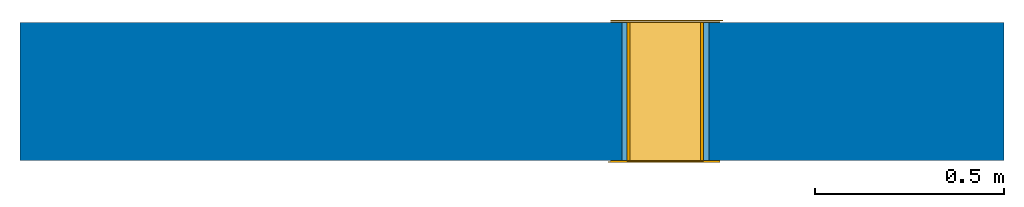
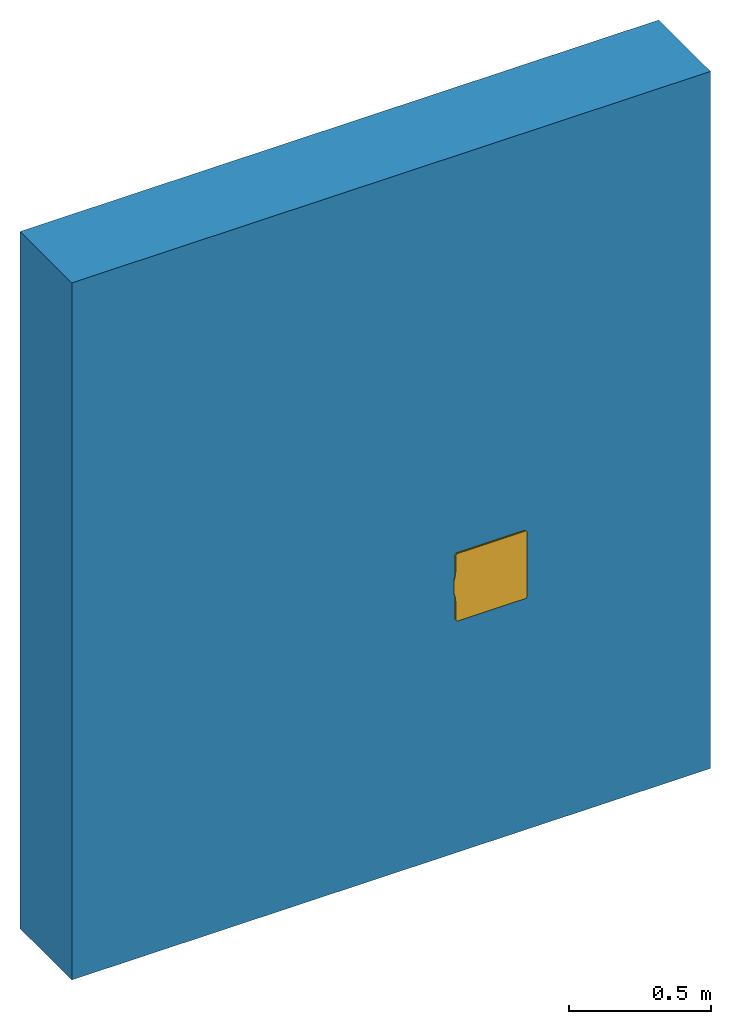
# Not in any storey: 1 wall, 1 window, 1 opening.
"""IFC2X3 model written with IfcOpenShell, lengths in metres."""

from ifc_helpers import new_model, entity, si_unit, converted_unit, derived_unit, direction, frame, frame_2d, origin, place, context, subcontext, project, spatial, polyline, circle_curve, parameter, trimmed, segment, composite_curve, rectangle, outline, extrude, source, transform, mapped, material, material_list, layer, layer_set, layer_usage, type_object, type_shapes, element, fill, save


model = new_model("IFC2X3")

# Units and contexts
model_context = context("Model", 3, precision=1e-05, world=origin(), true_north=direction((6.123031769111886e-17, 1.0)))
body_context = subcontext(model_context, "Body", "Model", "MODEL_VIEW")
ifc_project = project(units=[si_unit("LENGTHUNIT", "METRE"), si_unit("AREAUNIT", "SQUARE_METRE"), derived_unit("THERMALTRANSMITTANCEUNIT", [(si_unit("MASSUNIT", "GRAM", prefix="KILO"), 1), (si_unit("THERMODYNAMICTEMPERATUREUNIT", "KELVIN"), -1), (si_unit("TIMEUNIT", "SECOND"), -3)]), converted_unit("PLANEANGLEUNIT", "DEGREE", entity("IfcPlaneAngleMeasure", 0.017453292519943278), si_unit("PLANEANGLEUNIT", "RADIAN"), dimensions=[0, 0, 0, 0, 0, 0, 0])], contexts=[model_context])

# Site
site_placement = place(None, origin())
site = spatial("IfcSite", under=ifc_project, at=site_placement, Name="Default", CompositionType="ELEMENT")

# Wall, opening, window
ifc_material_1 = material(Name="Mauerwerk - Ziegel")
ifc_layer = layer(ifc_material_1, 0.365)
ifc_layer_set = layer_set([ifc_layer], Name="Basiswand:Ziegel 365")
ifc_layer_usage = layer_usage(ifc_layer_set, "AXIS2", "NEGATIVE", 0.1825)
wall_type = type_object("IfcWallType", Name="Basiswand:Ziegel 365", PredefinedType="STANDARD", material=ifc_layer_set)
wall_placement = place(site_placement, frame((29.772133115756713, 8.946971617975, 0.0)))
wall = element("IfcWallStandardCase", 1, at=wall_placement, inside=site, type_object=wall_type, material=ifc_layer_usage, Name="Basiswand:Ziegel 365", ObjectType="Basiswand:Ziegel 365", context=body_context, shape_type="SweptSolid", body=[
    extrude(rectangle(XDim=2.5999999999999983, YDim=0.36500000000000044, at=frame_2d((1.2999999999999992, -1.5265566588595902e-16), x_axis=(-1.0, 0.0))), origin(), (0.0, 0.0, 1.0), 3.0000000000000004),
])
opening_placement = place(wall_placement, frame((1.5899999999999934, -0.182500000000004, 1.0299999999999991)))
opening = element("IfcOpeningElement", 2, at=opening_placement, cuts=wall, Name="LaboLite:LaboLite Modell Wandöffnung 230x230:1", ObjectType="Opening", context=body_context, shape_type="SweptSolid", body=[
    extrude(rectangle(XDim=0.22999999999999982, YDim=0.22999999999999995, at=frame_2d((0.11499999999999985, 0.11499999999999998), x_axis=(1.0, 0.0))), frame((0.0, 0.0, 0.0), z_axis=(0.0, 1.0, 0.0), x_axis=(0.0, 0.0, 1.0)), (0.0, 0.0, 1.0), 0.365),
])
ifc_material_2 = material(Name="Polyethylen-Kern")
ifc_material_3 = material(Name="Aluminiumverbundplatte RAL 9003 / 9006")
ifc_material_list = material_list([ifc_material_2, ifc_material_3])
window_style = type_object("IfcWindowStyle", Name="LaboLite:LaboLite Modell Wandöffnung 230x230", ConstructionType="NOTDEFINED", OperationType="NOTDEFINED", ParameterTakesPrecedence=False, Sizeable=False, material=ifc_material_list)
shared_shape = source(origin(), body_context, "Body", "SweptSolid", [
    extrude(outline(polyline([(-0.1009999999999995, -0.10099999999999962), (0.10100000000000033, -0.10099999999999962), (0.10099999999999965, 0.10099999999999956), (-0.10100000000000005, 0.10099999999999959), (-0.1009999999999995, -0.10099999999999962)]), holes=[polyline([(-0.09299999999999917, -0.09299999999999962), (-0.09299999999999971, 0.09300000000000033), (0.09300000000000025, 0.09300000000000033), (0.09300000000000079, -0.09299999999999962), (-0.09299999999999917, -0.09299999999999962)])]), frame((0.11499999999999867, 0.0, 0.11500000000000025), z_axis=(0.0, 1.0, 0.0), x_axis=(0.0, 0.0, -1.0)), (0.0, 0.0, 1.0), 0.365),
    extrude(outline(composite_curve([segment(trimmed(circle_curve(frame_2d((-0.23520476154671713, 0.13335764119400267), x_axis=(1.0, 0.0)), 0.008), [parameter(89.99999999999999)], [parameter(180.00000000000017)], True, "PARAMETER"), True, "CONTINUOUS"), segment(polyline([(-0.24320476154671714, 0.13335764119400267), (-0.24320476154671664, -0.140642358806)]), True, "CONTINUOUS"), segment(trimmed(circle_curve(frame_2d((-0.23520476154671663, -0.14064235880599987), x_axis=(1.0, 0.0)), 0.008), [parameter(180.00000000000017)], [parameter(269.9999999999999)], True, "PARAMETER"), True, "CONTINUOUS"), segment(polyline([(-0.23520476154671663, -0.1486423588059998), (0.03879523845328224, -0.14864235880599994)]), True, "CONTINUOUS"), segment(trimmed(circle_curve(frame_2d((0.03879523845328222, -0.140642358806), x_axis=(1.0, 0.0)), 0.008), [parameter(270.0)], [parameter(0.0)], True, "PARAMETER"), True, "CONTINUOUS"), segment(polyline([(0.046795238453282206, -0.140642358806), (0.046795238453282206, -0.060305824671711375)]), True, "CONTINUOUS"), segment(trimmed(circle_curve(frame_2d((0.04731299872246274, -0.060305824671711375), x_axis=(1.0, 0.0)), 0.0005177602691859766), [parameter(89.99999999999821)], [parameter(180.00000000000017)], True, "PARAMETER"), False, "CONTINUOUS"), segment(polyline([(0.04731299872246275, -0.05978806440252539), (0.04829523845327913, -0.0597880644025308)]), True, "CONTINUOUS"), segment(trimmed(circle_curve(frame_2d((0.04829523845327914, -0.05928806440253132), x_axis=(1.0, 0.0)), 0.0005), [parameter(269.99999999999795)], [parameter(0.0)], True, "PARAMETER"), True, "CONTINUOUS"), segment(polyline([(0.048795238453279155, -0.05928806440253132), (0.04879523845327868, -0.04785016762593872)]), True, "CONTINUOUS"), segment(trimmed(circle_curve(frame_2d((0.08379523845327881, -0.047850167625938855), x_axis=(1.0, 0.0)), 0.034999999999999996), [parameter(169.99999999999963)], [parameter(179.99999999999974)], True, "PARAMETER"), False, "CONTINUOUS"), segment(polyline([(0.04932696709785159, -0.04177248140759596), (0.04973341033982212, -0.03946742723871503)]), True, "CONTINUOUS"), segment(trimmed(circle_curve(frame_2d((0.002795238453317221, -0.019522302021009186), x_axis=(1.0, 0.0)), 0.05099999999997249), [parameter(336.97822794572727)], [parameter(0.0)], True, "PARAMETER"), True, "CONTINUOUS"), segment(polyline([(0.05379523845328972, -0.019522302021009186), (0.053795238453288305, 0.023163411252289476)]), True, "CONTINUOUS"), segment(trimmed(circle_curve(frame_2d((0.0027952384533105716, 0.023163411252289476), x_axis=(1.0, 0.0)), 0.050999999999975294), [parameter(0.0)], [parameter(23.021772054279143)], True, "PARAMETER"), True, "CONTINUOUS"), segment(polyline([(0.04973341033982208, 0.04310853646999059), (0.049326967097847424, 0.04541359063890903)]), True, "CONTINUOUS"), segment(trimmed(circle_curve(frame_2d((0.08379523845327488, 0.051491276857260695), x_axis=(1.0, 0.0)), 0.034999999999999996), [parameter(179.99999999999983)], [parameter(189.9999999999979)], True, "PARAMETER"), False, "CONTINUOUS"), segment(polyline([(0.04879523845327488, 0.051491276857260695), (0.04879523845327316, 0.06290364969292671)]), True, "CONTINUOUS"), segment(trimmed(circle_curve(frame_2d((0.04825195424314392, 0.06290364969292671), x_axis=(1.0, 0.0)), 0.0005432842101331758), [parameter(0.0)], [parameter(90.00000000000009)], True, "PARAMETER"), True, "CONTINUOUS"), segment(polyline([(0.04825195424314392, 0.06344693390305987), (0.047295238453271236, 0.06344693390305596)]), True, "CONTINUOUS"), segment(trimmed(circle_curve(frame_2d((0.047295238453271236, 0.06394693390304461), x_axis=(1.0, 0.0)), 0.0005), [parameter(180.00000000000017)], [parameter(269.9999999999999)], True, "PARAMETER"), False, "CONTINUOUS"), segment(polyline([(0.046795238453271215, 0.06394693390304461), (0.04679523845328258, 0.13335764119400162)]), True, "CONTINUOUS"), segment(trimmed(circle_curve(frame_2d((0.038795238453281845, 0.13335764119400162), x_axis=(1.0, 0.0)), 0.008), [parameter(0.0)], [parameter(90.00000000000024)], True, "PARAMETER"), True, "CONTINUOUS"), segment(polyline([(0.03879523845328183, 0.14135764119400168), (-0.23520476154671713, 0.14135764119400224)]), True, "CONTINUOUS")], self_intersect=False)), frame((0.016795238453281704, -0.005999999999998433, 0.11864235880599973), z_axis=(0.0, 1.0, 0.0), x_axis=(-1.0, 0.0, 0.0)), (0.0, 0.0, 1.0), 0.0024999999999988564),
    extrude(outline(composite_curve([segment(trimmed(circle_curve(frame_2d((-0.12088545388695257, 0.14611465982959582), x_axis=(1.0, 0.0)), 0.008), [parameter(89.99999999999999)], [parameter(180.00000000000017)], True, "PARAMETER"), True, "CONTINUOUS"), segment(polyline([(-0.12888545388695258, 0.14611465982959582), (-0.12888545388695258, -0.07288534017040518)]), True, "CONTINUOUS"), segment(polyline([(-0.12888545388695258, -0.07288534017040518), (-0.12888545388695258, -0.12791676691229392)]), True, "CONTINUOUS"), segment(trimmed(circle_curve(frame_2d((-0.12091688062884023, -0.12791676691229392), x_axis=(1.0, 0.0)), 0.007968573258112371), [parameter(180.00000000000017)], [parameter(269.9999999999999)], True, "PARAMETER"), True, "CONTINUOUS"), segment(polyline([(-0.12091688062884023, -0.1358853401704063), (0.15311505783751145, -0.1358853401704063)]), True, "CONTINUOUS"), segment(trimmed(circle_curve(frame_2d((0.15311505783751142, -0.12788585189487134), x_axis=(1.0, 0.0)), 0.007999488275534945), [parameter(270.0)], [parameter(0.0)], True, "PARAMETER"), True, "CONTINUOUS"), segment(polyline([(0.16111454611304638, -0.12788585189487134), (0.16111454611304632, 0.14611465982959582)]), True, "CONTINUOUS"), segment(trimmed(circle_curve(frame_2d((0.15311454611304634, 0.14611465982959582), x_axis=(1.0, 0.0)), 0.008), [parameter(0.0)], [parameter(90.00000000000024)], True, "PARAMETER"), True, "CONTINUOUS"), segment(polyline([(0.1531145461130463, 0.15411465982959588), (-0.12088545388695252, 0.15411465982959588)]), True, "CONTINUOUS")], self_intersect=False), holes=[polyline([(-0.08488545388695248, 0.11011465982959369), (0.11711454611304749, 0.11011465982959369), (0.11711454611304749, -0.09188534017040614), (-0.08488545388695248, -0.09188534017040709), (-0.08488545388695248, 0.11011465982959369)])]), frame((0.13111454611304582, -0.0025000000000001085, 0.10588534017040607), z_axis=(0.0, 1.0, 0.0), x_axis=(-1.0, 0.0, 0.0)), (0.0, 0.0, 1.0), 0.002499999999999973),
    extrude(outline(composite_curve([segment(polyline([(-0.13699999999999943, -0.14500000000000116), (0.13699999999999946, -0.14500000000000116)]), True, "CONTINUOUS"), segment(trimmed(circle_curve(frame_2d((0.13699999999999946, -0.1370000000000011), x_axis=(1.0, 0.0)), 0.008), [parameter(269.9999999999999)], [parameter(0.0)], True, "PARAMETER"), True, "CONTINUOUS"), segment(polyline([(0.14499999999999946, -0.1370000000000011), (0.14499999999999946, 0.13700000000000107)]), True, "CONTINUOUS"), segment(trimmed(circle_curve(frame_2d((0.13699999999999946, 0.13700000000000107), x_axis=(1.0, 0.0)), 0.008), [parameter(0.0)], [parameter(90.00000000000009)], True, "PARAMETER"), True, "CONTINUOUS"), segment(polyline([(0.13699999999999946, 0.14500000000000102), (-0.13699999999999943, 0.14500000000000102)]), True, "CONTINUOUS"), segment(trimmed(circle_curve(frame_2d((-0.13699999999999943, 0.13700000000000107), x_axis=(1.0, 0.0)), 0.008), [parameter(90.00000000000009)], [parameter(179.99999999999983)], True, "PARAMETER"), True, "CONTINUOUS"), segment(polyline([(-0.14499999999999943, 0.13700000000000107), (-0.14499999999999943, -0.1370000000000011)]), True, "CONTINUOUS"), segment(trimmed(circle_curve(frame_2d((-0.13699999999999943, -0.1370000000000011), x_axis=(1.0, 0.0)), 0.008), [parameter(179.99999999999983)], [parameter(269.9999999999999)], True, "PARAMETER"), True, "CONTINUOUS")], self_intersect=False), holes=[polyline([(-0.10100000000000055, -0.10099999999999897), (-0.10100000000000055, 0.10100000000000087), (0.1009999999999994, 0.10100000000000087), (0.1009999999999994, -0.10099999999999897), (-0.10100000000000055, -0.10099999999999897)])]), frame((0.1150000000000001, 0.3650000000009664, 0.1150000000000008), z_axis=(0.0, 1.0, 0.0), x_axis=(1.0, 0.0, 0.0)), (0.0, 0.0, 1.0), 0.0025000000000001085),
    extrude(outline(composite_curve([segment(polyline([(-0.22547657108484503, -0.13884927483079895), (0.04852342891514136, -0.13884927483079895)]), True, "CONTINUOUS"), segment(trimmed(circle_curve(frame_2d((0.04852342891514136, -0.1308492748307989), x_axis=(-1.0, 0.0)), 0.008), [parameter(89.99999999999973)], [parameter(180.00000000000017)], True, "PARAMETER"), True, "CONTINUOUS"), segment(polyline([(0.056523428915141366, -0.1308492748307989), (0.05652342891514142, -0.061438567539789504)]), True, "CONTINUOUS"), segment(trimmed(circle_curve(frame_2d((0.05702342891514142, -0.061438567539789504), x_axis=(-1.0, 0.0)), 0.0005), [parameter(269.9999999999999)], [parameter(0.0)], True, "PARAMETER"), False, "CONTINUOUS"), segment(polyline([(0.05702342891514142, -0.060938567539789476), (0.057980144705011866, -0.060938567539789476)]), True, "CONTINUOUS"), segment(trimmed(circle_curve(frame_2d((0.057980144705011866, -0.06039528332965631), x_axis=(-1.0, 0.0)), 0.0005432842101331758), [parameter(90.00000000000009)], [parameter(180.00000000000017)], True, "PARAMETER"), True, "CONTINUOUS"), segment(polyline([(0.05852342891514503, -0.06039528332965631), (0.05852342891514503, -0.04898291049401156)]), True, "CONTINUOUS"), segment(trimmed(circle_curve(frame_2d((0.09352342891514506, -0.048982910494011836), x_axis=(-1.0, 0.0)), 0.034999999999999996), [parameter(350.00000000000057)], [parameter(0.0)], True, "PARAMETER"), False, "CONTINUOUS"), segment(polyline([(0.0590551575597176, -0.04290522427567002), (0.05946160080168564, -0.04060017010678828)]), True, "CONTINUOUS"), segment(trimmed(circle_curve(frame_2d((0.012523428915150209, -0.020655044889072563), x_axis=(-1.0, 0.0)), 0.051000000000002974), [parameter(156.9782279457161)], [parameter(180.00000000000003)], True, "PARAMETER"), True, "CONTINUOUS"), segment(polyline([(0.0635234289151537, -0.020655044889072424), (0.06352342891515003, 0.022030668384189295)]), True, "CONTINUOUS"), segment(trimmed(circle_curve(frame_2d((0.012523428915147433, 0.022030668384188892), x_axis=(-1.0, 0.0)), 0.051000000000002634), [parameter(179.99999999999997)], [parameter(203.02177205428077)], True, "PARAMETER"), True, "CONTINUOUS"), segment(polyline([(0.05946160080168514, 0.04197579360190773), (0.0590551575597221, 0.04428084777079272)]), True, "CONTINUOUS"), segment(trimmed(circle_curve(frame_2d((0.09352342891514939, 0.05035853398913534), x_axis=(-1.0, 0.0)), 0.034999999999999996), [parameter(4.579998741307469e-13)], [parameter(10.000000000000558)], True, "PARAMETER"), False, "CONTINUOUS"), segment(polyline([(0.05852342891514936, 0.05035853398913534), (0.05852342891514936, 0.061796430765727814)]), True, "CONTINUOUS"), segment(trimmed(circle_curve(frame_2d((0.058023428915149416, 0.061796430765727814), x_axis=(-1.0, 0.0)), 0.0005), [parameter(180.00000000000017)], [parameter(269.9999999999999)], True, "PARAMETER"), True, "CONTINUOUS"), segment(polyline([(0.058023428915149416, 0.062296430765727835), (0.0570411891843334, 0.06229643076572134)]), True, "CONTINUOUS"), segment(trimmed(circle_curve(frame_2d((0.0570411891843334, 0.06281419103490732), x_axis=(-1.0, 0.0)), 0.0005177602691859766), [parameter(0.0)], [parameter(90.00000000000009)], True, "PARAMETER"), False, "CONTINUOUS"), segment(polyline([(0.056523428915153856, 0.06281419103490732), (0.056523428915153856, 0.14315072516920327)]), True, "CONTINUOUS"), segment(trimmed(circle_curve(frame_2d((0.04852342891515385, 0.14315072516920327), x_axis=(-1.0, 0.0)), 0.008), [parameter(180.00000000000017)], [parameter(269.99999999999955)], True, "PARAMETER"), True, "CONTINUOUS"), segment(polyline([(0.04852342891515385, 0.1511507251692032), (-0.22547657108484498, 0.1511507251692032)]), True, "CONTINUOUS"), segment(trimmed(circle_curve(frame_2d((-0.22547657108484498, 0.14315072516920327), x_axis=(-1.0, 0.0)), 0.008), [parameter(269.99999999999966)], [parameter(0.0)], True, "PARAMETER"), True, "CONTINUOUS"), segment(polyline([(-0.23347657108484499, 0.14315072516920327), (-0.23347657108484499, -0.1308492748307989)]), True, "CONTINUOUS"), segment(trimmed(circle_curve(frame_2d((-0.22547657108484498, -0.1308492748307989), x_axis=(-1.0, 0.0)), 0.008), [parameter(0.0)], [parameter(89.99999999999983)], True, "PARAMETER"), True, "CONTINUOUS")], self_intersect=False)), frame((0.2034765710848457, 0.36850000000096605, 0.12115072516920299), z_axis=(0.0, 1.0, 0.0), x_axis=(1.0, 0.0, 0.0)), (0.0, 0.0, 1.0), 0.0025000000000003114),
])
type_shapes(window_style, [shared_shape])
window_placement = place(opening_placement, origin())
window = element("IfcWindow", 3, at=window_placement, inside=site, type_object=window_style, material=ifc_material_list, Name="LaboLite:LaboLite Modell Wandöffnung 230x230", ObjectType="LaboLite:LaboLite Modell Wandöffnung 230x230", OverallHeight=0.2299999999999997, OverallWidth=0.2299999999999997, context=body_context, shape_type="MappedRepresentation", body=[
    mapped(shared_shape, transform((0.0, 0.0, 0.0), scale=1.0)),
])
fill(opening, window)

save(model, "model.ifc")
